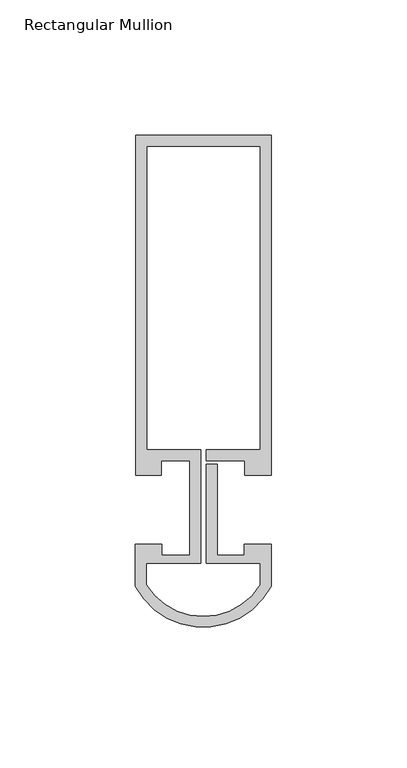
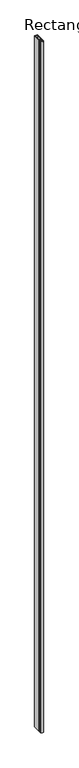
"""IFC4 building model written with IfcOpenShell, lengths in millimetres: member geometry, Rectangular Mullion : Reynaers_CW-50_Transom-Transom_Horizontal_125.5mm_Facecap-07."""

from ifc_helpers import new_model, si_unit, point, frame, frame_2d, origin, place, context, project, spatial, polyline, circle_curve, trimmed, segment, composite_curve, outline, extrude, source, transform, mapped, element, save


def rectangular_mullion_2f30c226(model_context):
    return source(origin(), model_context, "Body", "SweptSolid", [
        extrude(outline(composite_curve([segment(polyline([(25.1995941, 12.7331291), (15.499, 12.7331291), (15.499, 18.1331291), (1.2995941, 18.1331291), (1.2995941, 22.1331291), (21.1995941, 22.1331291), (21.1995941, 134.2331291), (-20.8004059, 134.2331291), (-20.8004059, 22.1331291), (-0.9004059, 22.1331291), (-0.9004059, -19.7331291), (-20.960579, -19.7331291), (-20.960579, -27.7331291)]), True, "CONTINUOUS"), segment(trimmed(circle_curve(frame_2d((0.1195075, -14.5934909)), 24.8398901), [point((-20.960579, -27.7331291))], [point((21.1995941, -27.7331291))], True, "CARTESIAN"), True, "CONTINUOUS"), segment(polyline([(21.1995941, -27.7331291), (21.1995941, -19.7331291), (1.2995941, -19.7331291), (1.2995941, 16.7615089), (5.2995941, 16.7615089), (5.2995941, -16.7331291), (15.2996495, -16.7331291), (15.2996495, -12.7331291), (25.1995941, -12.7331291), (25.1995941, -28.2927678)]), True, "CONTINUOUS"), segment(trimmed(circle_curve(frame_2d((0.1195075, -15.0907737)), 28.3426074), [point((25.1995941, -28.2927678))], [point((-24.960579, -28.2927678))], False, "CARTESIAN"), True, "CONTINUOUS"), segment(polyline([(-24.960579, -28.2927678), (-24.960579, -12.7331291), (-15.2996495, -12.7331291), (-15.2996495, -16.7331291), (-4.9004059, -16.7331291), (-4.9004059, 18.1331291), (-15.499, 18.1331291), (-15.499, 12.7331291), (-24.8004059, 12.7331291), (-24.8004059, 138.2331291), (25.1995941, 138.2331291), (25.1995941, 12.7331291)]), True, "CONTINUOUS")], self_intersect=False)), frame((0.0, 0.0, -12000.0), z_axis=(0.0, 0.0, 1.0), x_axis=(1.0, 0.0, 0.0)), (0.0, 0.0, 1.0), 12000.0),
    ])


if __name__ == "__main__":
    model = new_model("IFC4")
    model_context = context("Model", 3, world=origin())
    ifc_project = project(units=[si_unit("LENGTHUNIT", "METRE", prefix="MILLI")], contexts=[model_context])
    site = spatial("IfcSite", under=ifc_project)
    building = spatial("IfcBuilding", under=site)
    placement = place(None, origin())
    rectangular_mullion_shape = rectangular_mullion_2f30c226(model_context)
    element("IfcMember", 1, ObjectType="Rectangular Mullion : Reynaers_CW-50_Transom-Transom_Horizontal_125.5mm_Facecap-07", at=placement, inside=building, context=model_context, shape_type="MappedRepresentation", body=[
        mapped(rectangular_mullion_shape, transform((0.0, 0.0, 0.0), x_axis=(1.0, 0.0, 0.0), y_axis=(0.0, 1.0, 0.0), z_axis=(0.0, 0.0, 1.0))),
    ])
    save(model, "model.ifc")
